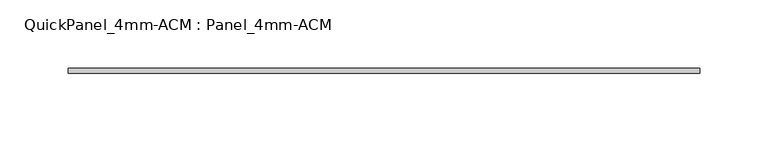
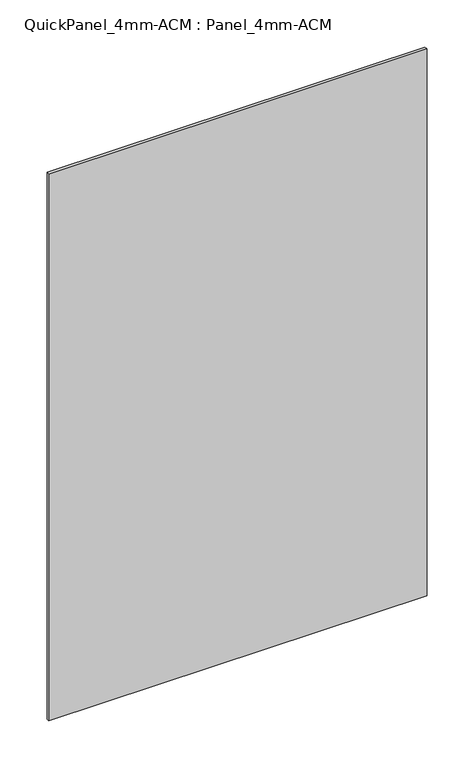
"""IFC4 building model written with IfcOpenShell, lengths in millimetres: plate geometry, QuickPanel_4mm-ACM : Panel_4mm-ACM."""

from ifc_helpers import new_model, si_unit, origin, origin_with_axes, place, context, project, spatial, polyline, outline, extrude, source, transform, mapped, element, save


def quickpanel_4mm_acm_panel_4mm_acm_184e3744(model_context):
    return source(origin(), model_context, "Body", "SweptSolid", [
        extrude(outline(polyline([(-231.83849, 6.096), (-231.83849, 9.906), (231.83849, 9.906), (231.83849, 6.096), (-231.83849, 6.096)])), origin_with_axes(), (0.0, 0.0, 1.0), 708.2898236),
    ])


if __name__ == "__main__":
    model = new_model("IFC4")
    model_context = context("Model", 3, world=origin())
    ifc_project = project(units=[si_unit("LENGTHUNIT", "METRE", prefix="MILLI")], contexts=[model_context])
    site = spatial("IfcSite", under=ifc_project)
    building = spatial("IfcBuilding", under=site)
    placement = place(None, origin())
    quickpanel_4mm_acm_panel_4mm_acm_shape = quickpanel_4mm_acm_panel_4mm_acm_184e3744(model_context)
    element("IfcPlate", 1, ObjectType="QuickPanel_4mm-ACM : Panel_4mm-ACM", at=placement, inside=building, context=model_context, shape_type="MappedRepresentation", body=[
        mapped(quickpanel_4mm_acm_panel_4mm_acm_shape, transform((0.0, 0.0, 0.0), x_axis=(1.0, 0.0, 0.0), y_axis=(0.0, 1.0, 0.0), z_axis=(0.0, 0.0, 1.0))),
    ])
    save(model, "model.ifc")
